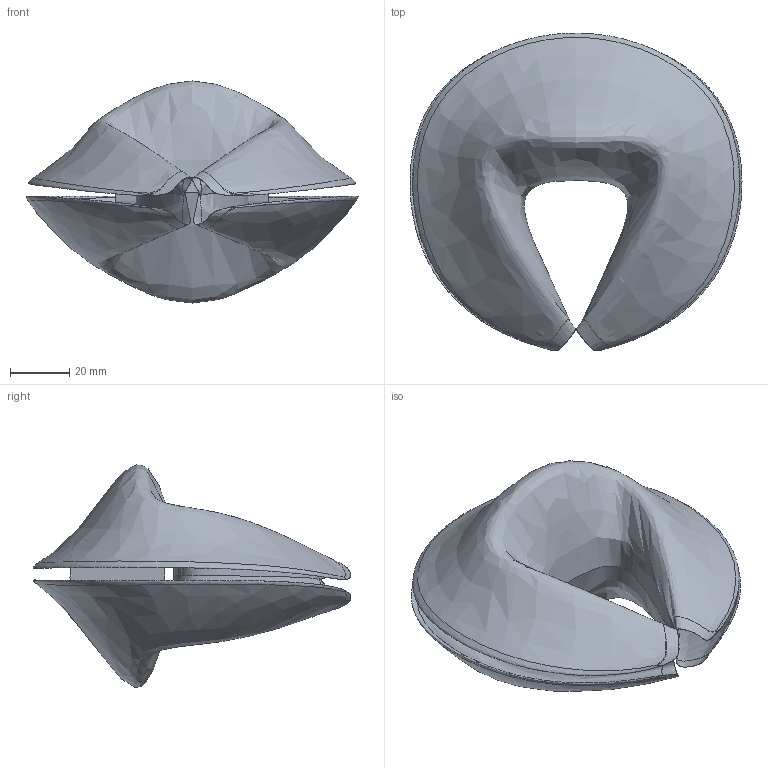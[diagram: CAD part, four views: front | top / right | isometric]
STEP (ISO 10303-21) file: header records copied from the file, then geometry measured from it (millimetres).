
FILE_DESCRIPTION(/* description */ (''),/* implementation_level */ '2;1');
FILE_NAME(/* name */ '/var/folders/50/5h31_7291ndgbk58qcbgyfr40000gn/T/com.autodesk.mas.fusion360/Neutron/169976fc-2624-4c9a-92ee-6ec98b77c4e2.stp',/* time_stamp */ '2019-05-09T08:20:55-04:00',/* author */ ('annie.ferlatte'),/* organization */ (''),/* preprocessor_version */ 'ST-DEVELOPER v18',/* originating_system */ 'Autodesk Translation Framework v8.2.0.1029',/* authorisation */ '');
FILE_SCHEMA (('AUTOMOTIVE_DESIGN { 1 0 10303 214 3 1 1 }'));
Length unit declared in the file: millimetre
Products named in the file (1): FORTUNE COOKIE
Bounding box: 112.39 x 107.59 x 75.22 mm (x, y, z)
Volume: 93036.1 mm3; surface area: 56903.6 mm2
Topology: 2 solids, 2 shells, 13 faces, 27 edges, 18 vertices
Faces by surface type: bspline 10, plane 2, cylinder 1
Full cylindrical faces by diameter (mm): 32.119 x1
Entity records: 2597 total; most frequent: CARTESIAN_POINT 2359, ORIENTED_EDGE 54, EDGE_CURVE 27, B_SPLINE_CURVE_WITH_KNOTS 24, VERTEX_POINT 18, FACE_OUTER_BOUND 13, EDGE_LOOP 13, ADVANCED_FACE 13
